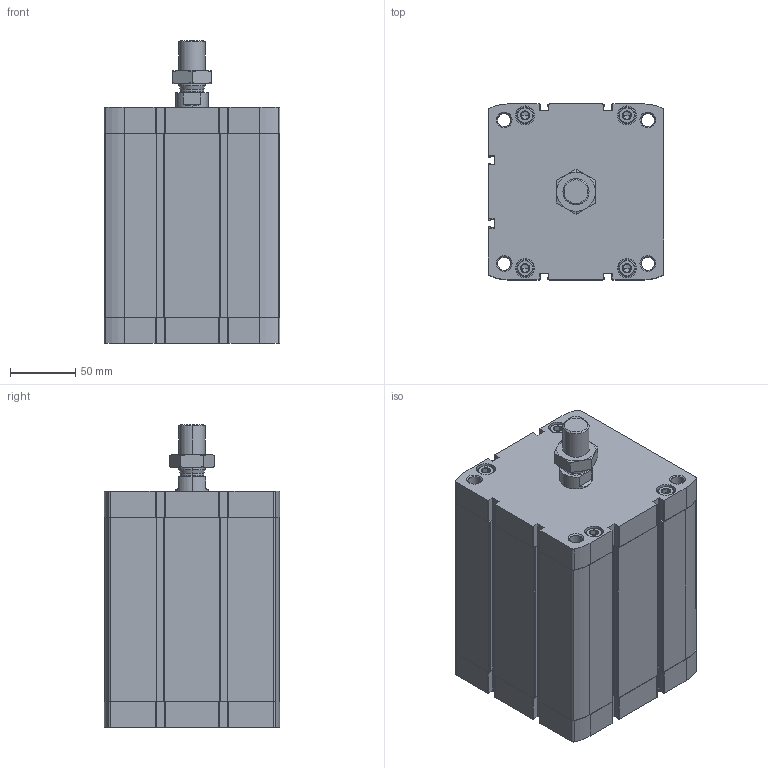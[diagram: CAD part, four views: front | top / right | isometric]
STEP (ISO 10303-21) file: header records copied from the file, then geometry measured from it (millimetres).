
FILE_DESCRIPTION (( 'STEP AP203' ), '1' );
FILE_NAME ('CCN125-100M.STEP', '2020-06-05T19:23:55', ( '' ), ( '' ), 'SwSTEP 2.0', 'SolidWorks 2019', '' );
FILE_SCHEMA (( 'CONFIG_CONTROL_DESIGN' ));
Length unit declared in the file: millimetre
Products named in the file (1): CCN125-100M
Bounding box: 134.6 x 134.6 x 232 mm (x, y, z)
Volume: 1978385.8 mm3; surface area: 304424.2 mm2
Topology: 3 solids, 3 shells, 555 faces, 1412 edges, 886 vertices
Faces by surface type: plane 275, cylinder 196, cone 80, torus 4
Entity records: 18163 total; most frequent: CARTESIAN_POINT 4452, DIRECTION 2966, ORIENTED_EDGE 2792, EDGE_CURVE 1396, AXIS2_PLACEMENT_3D 1092, VERTEX_POINT 886, LINE 782, VECTOR 782
